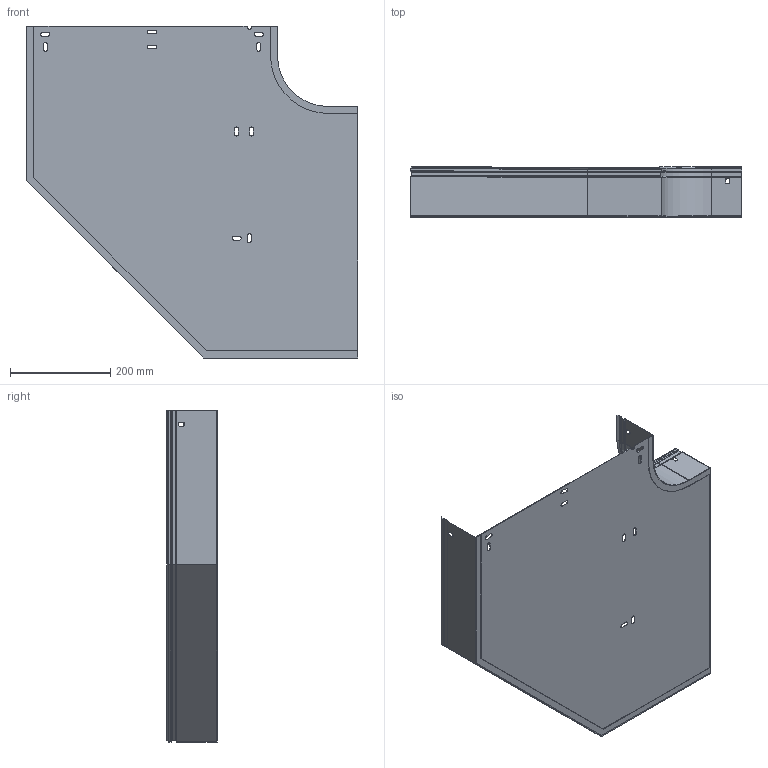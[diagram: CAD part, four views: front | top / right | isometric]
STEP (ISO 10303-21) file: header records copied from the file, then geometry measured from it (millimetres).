
FILE_DESCRIPTION (( 'STEP AP203' ), '1' );
FILE_NAME ('ERE_CPERC 500x100.step', '2023-07-27T18:48:23', ( '' ), ( '' ), 'SwSTEP 2.0', 'SolidWorks 2022', '' );
FILE_SCHEMA (( 'CONFIG_CONTROL_DESIGN' ));
Length unit declared in the file: millimetre
Products named in the file (4): ERE_LATERAL INT CP_100; ERE_CPERC 500x100; ERE_LATERAL EXT CP_500 x 100; ERE_BASE CP_500
Assembly tree (3 placements, depth 2):
  ERE_CPERC 500x100
    ERE_BASE CP_500
    ERE_LATERAL INT CP_100
    ERE_LATERAL EXT CP_500 x 100
Bounding box: 660.85 x 100 x 660.85 mm (x, y, z)
Volume: 509063.1 mm3; surface area: 1024356.7 mm2
Topology: 3 solids, 3 shells, 171 faces, 447 edges, 282 vertices
Faces by surface type: plane 120, cylinder 44, cone 7
Entity records: 5637 total; most frequent: CARTESIAN_POINT 906, ORIENTED_EDGE 894, DIRECTION 891, EDGE_CURVE 447, LINE 357, VECTOR 357, VERTEX_POINT 282, AXIS2_PLACEMENT_3D 267
